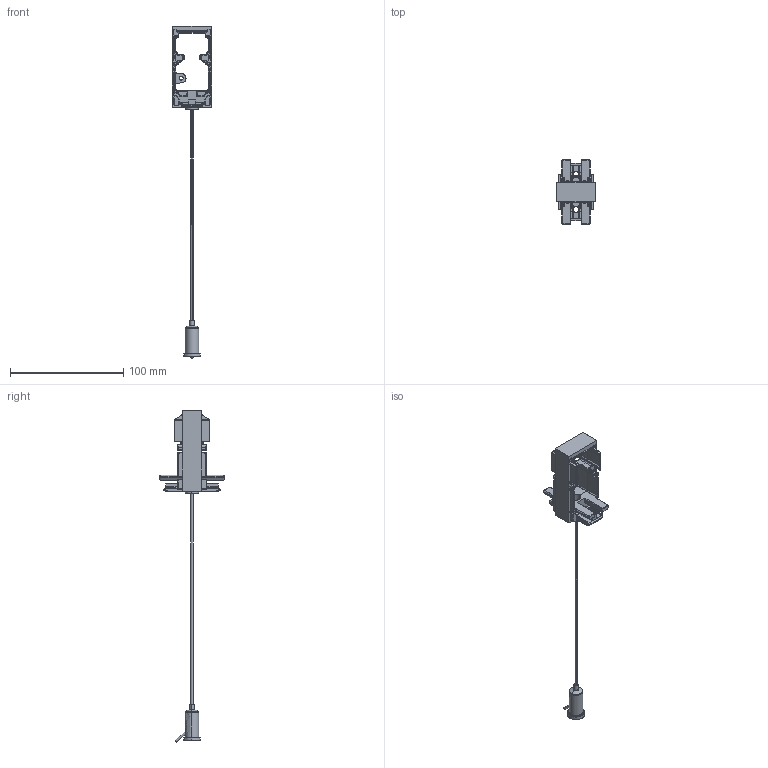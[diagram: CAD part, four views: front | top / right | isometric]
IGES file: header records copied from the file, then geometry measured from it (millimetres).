
Start section: SolidWorks IGES file using analytic representation for surfaces
Global section: file name: C:\Users\extension46\Desktop\3D-WEB\Invisible\Modular\JOINT_180D-sreel-wire.IGS; native system: SolidWorks 2023; preprocessor: SolidWorks 2023; author: y.wang; date: 240627.085546; units: millimetre
Bounding box: 35 x 56.6 x 292.99 mm (x, y, z)
Surface area: 22162.4 mm2 (no closed solid volume)
Topology: 0 solids, 0 shells, 1346 faces, 9914 edges, 9817 vertices
Faces by surface type: revolution 742, bspline 604
